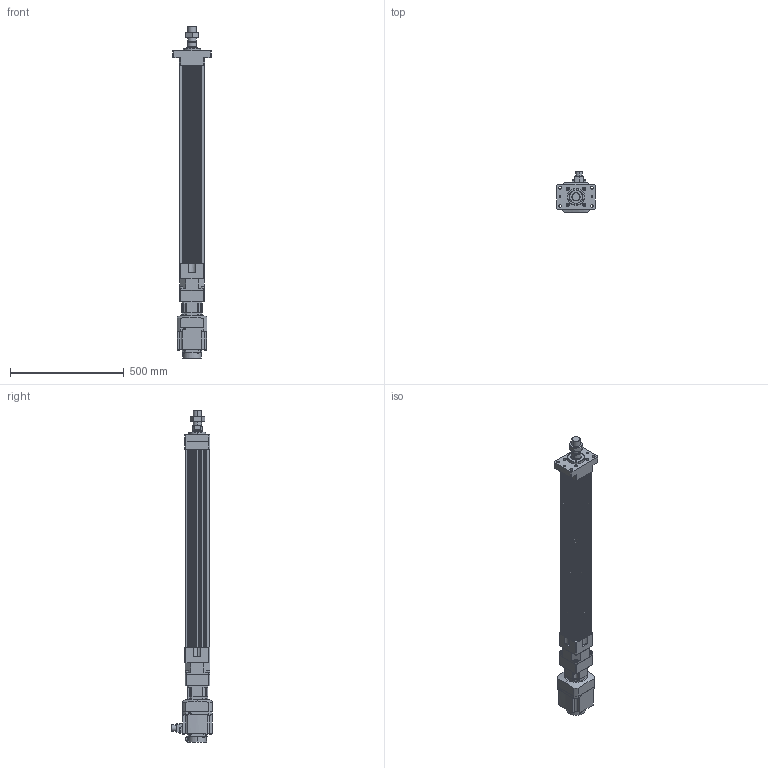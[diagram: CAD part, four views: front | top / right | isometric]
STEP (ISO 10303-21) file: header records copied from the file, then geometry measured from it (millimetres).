
FILE_DESCRIPTION (( 'STEP AP203' ), '1' );
FILE_NAME ('HES110NS(HS)-S700-W010G00-M-FM.STEP', '2023-01-27T07:37:58', ( 'tms' ), ( '' ), 'SwSTEP 2.0', 'SolidWorks 2013', '' );
FILE_SCHEMA (( 'CONFIG_CONTROL_DESIGN' ));
Length unit declared in the file: millimetre
Products named in the file (8): HG-SR102; M36X1.5P; HES110NS(HS)-S700-W010G00-M-FM; P0401301004; HES110-S700-G090-FM; AB0901; AB090-003[HG-SR102B]; HES110 ROD M ST700
Assembly tree (7 placements, depth 3):
  HES110NS(HS)-S700-W010G00-M-FM
    HES110-S700-G090-FM
    HES110 ROD M ST700
    M36X1.5P
    AB090-003[HG-SR102B]
      AB0901
      P0401301004
    HG-SR102
Bounding box: 170 x 177.49 x 1458.5 mm (x, y, z)
Volume: 9462175.8 mm3; surface area: 1322891.2 mm2
Topology: 4 solids, 15 shells, 1165 faces, 2950 edges, 1921 vertices
Faces by surface type: plane 558, cylinder 523, cone 72, bspline 8, torus 4
Entity records: 37081 total; most frequent: CARTESIAN_POINT 7224, DIRECTION 6367, ORIENTED_EDGE 5848, EDGE_CURVE 2934, AXIS2_PLACEMENT_3D 2335, VERTEX_POINT 1921, VECTOR 1697, LINE 1697
